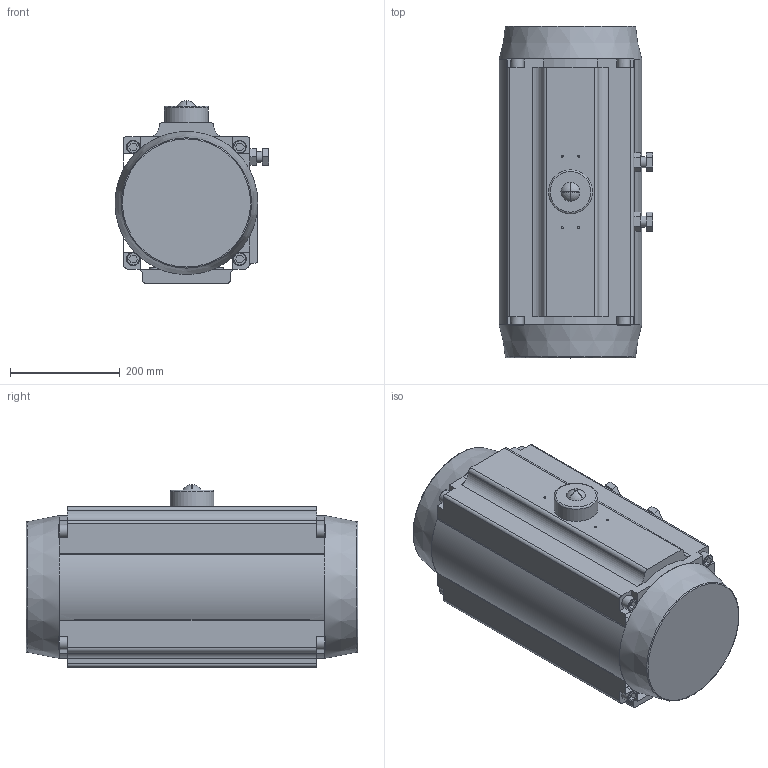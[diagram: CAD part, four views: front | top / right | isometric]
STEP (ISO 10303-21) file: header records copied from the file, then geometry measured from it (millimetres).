
FILE_DESCRIPTION(('Open CASCADE Model'),'2;1');
FILE_NAME('Open CASCADE Shape Model','2023-01-26T10:24:49',('Author'),( 'Open CASCADE'),'Open CASCADE STEP processor 7.3','Open CASCADE 7.3' ,'Unknown');
FILE_SCHEMA(('AUTOMOTIVE_DESIGN { 1 0 10303 214 1 1 1 1 }'));
Length unit declared in the file: millimetre
Products named in the file (1): Open CASCADE STEP translator 7.3 1
Bounding box: 280.15 x 604 x 332.28 mm (x, y, z)
Volume: 37339304.7 mm3; surface area: 754626.2 mm2
Topology: 1 solids, 9 shells, 308 faces, 755 edges, 489 vertices
Faces by surface type: plane 227, cylinder 67, torus 11, cone 2, sphere 1
Full cylindrical faces by diameter (mm): 3.5 x4, 4 x4, 17 x2, 17.5 x8, 18 x4, 20 x2, 24 x8, 80 x1, 100 x1
Entity records: 20782 total; most frequent: CARTESIAN_POINT 5503, DIRECTION 2907, LINE 1682, VECTOR 1682, ORIENTED_EDGE 1510, PCURVE 1510, DEFINITIONAL_REPRESENTATION 1510, EDGE_CURVE 755
